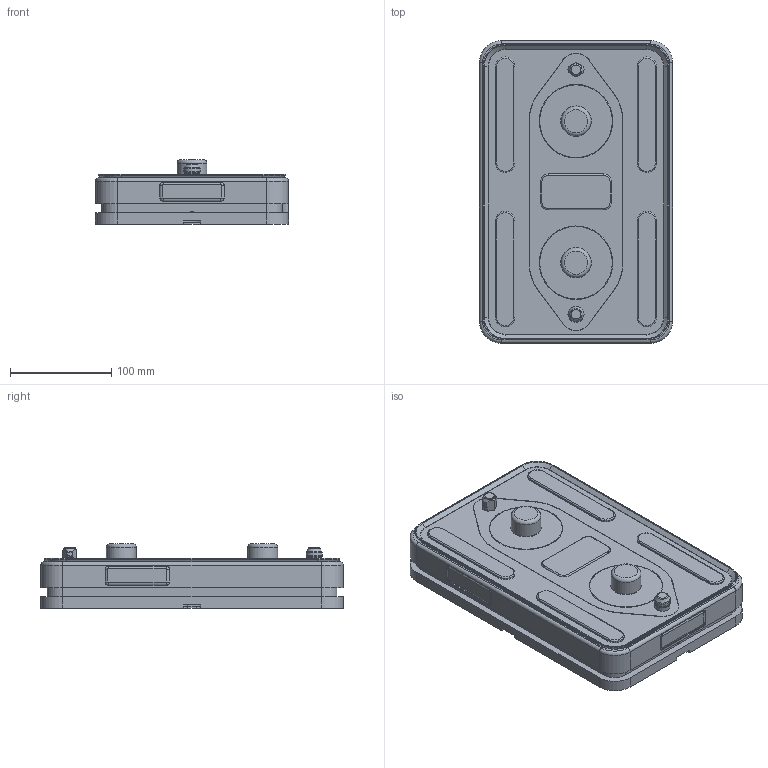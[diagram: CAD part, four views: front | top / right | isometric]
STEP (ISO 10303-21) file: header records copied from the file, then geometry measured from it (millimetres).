
FILE_DESCRIPTION(/* description */ (''),/* implementation_level */ '2;1');
FILE_NAME(/* name */ 'PPS Base 25.step',/* time_stamp */ '2025-06-26T13:09:48-07:00',/* author */ (''),/* organization */ (''),/* preprocessor_version */ 'ST-DEVELOPER v20.1',/* originating_system */ 'Autodesk Translation Framework v14.10.0.0',/* authorisation */ '');
FILE_SCHEMA (('AUTOMOTIVE_DESIGN { 1 0 10303 214 3 1 1 }'));
Length unit declared in the file: inch
Products named in the file (1): PPS Base
Bounding box: 190.5 x 298.45 x 63.5 mm (x, y, z)
Volume: 2521537.8 mm3; surface area: 184231.5 mm2
Topology: 1 solids, 1 shells, 405 faces, 1022 edges, 645 vertices
Faces by surface type: cylinder 182, plane 138, torus 51, bspline 22, cone 12
Full cylindrical faces by diameter (mm): 5.791 x4, 9.728 x10, 14.859 x1, 15.875 x1, 29.337 x2, 72.644 x2
Entity records: 17608 total; most frequent: CARTESIAN_POINT 7513, DIRECTION 2159, ORIENTED_EDGE 2044, EDGE_CURVE 1022, AXIS2_PLACEMENT_3D 821, VERTEX_POINT 645, LINE 517, VECTOR 517
